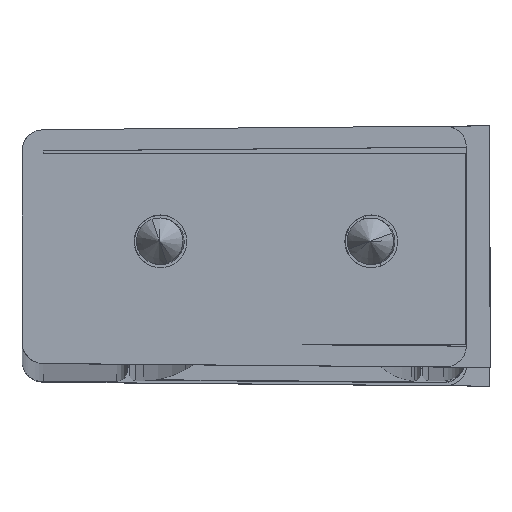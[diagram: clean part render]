
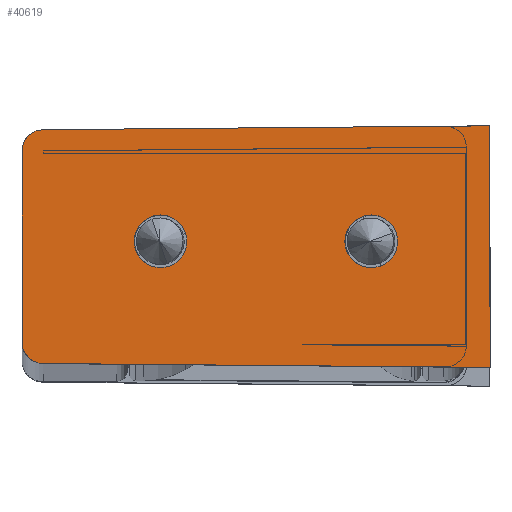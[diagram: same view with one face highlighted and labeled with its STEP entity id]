
A CAD part, top view. The second image highlights one B-rep face of the part: STEP entity #40619.
In plain terms, the highlighted planar face has unit normal (-0.009, 0, 1) as drawn and (0.009, 0, -1) by its records, which use the part's own axes.
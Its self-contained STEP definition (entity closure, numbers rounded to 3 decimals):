
#1077 = PLANE ( 'NONE',  #30287 ) ;
#1112 = LINE ( 'NONE', #33398, #12534 ) ;
#1162 = CARTESIAN_POINT ( 'NONE',  ( 19.609, -1.695, -2.995 ) ) ;
#1310 = LINE ( 'NONE', #36762, #19911 ) ;
#1479 = FACE_OUTER_BOUND ( 'NONE', #30213, .T. ) ;
#1714 = DIRECTION ( 'NONE',  ( 0., -1., 0. ) ) ;
#2195 = LINE ( 'NONE', #22270, #30012 ) ;
#2247 = EDGE_CURVE ( 'NONE', #39160, #6664, #2195, .T. ) ;
#2525 = CIRCLE ( 'NONE', #15365, 1.25 ) ;
#2526 = CIRCLE ( 'NONE', #28144, 1.25 ) ;
#3198 = CARTESIAN_POINT ( 'NONE',  ( 19.609, 9.395, -2.995 ) ) ;
#3529 = ORIENTED_EDGE ( 'NONE', *, *, #10247, .T. ) ;
#4413 = DIRECTION ( 'NONE',  ( 1., 0., 0.009 ) ) ;
#4852 = DIRECTION ( 'NONE',  ( -1., 0., -0.009 ) ) ;
#4941 = EDGE_CURVE ( 'NONE', #35570, #30748, #31920, .T. ) ;
#5323 = ORIENTED_EDGE ( 'NONE', *, *, #4941, .T. ) ;
#5605 = EDGE_CURVE ( 'NONE', #26976, #10889, #2526, .T. ) ;
#5687 = CARTESIAN_POINT ( 'NONE',  ( 14.033, 4.1, -3.043 ) ) ;
#6156 = ORIENTED_EDGE ( 'NONE', *, *, #39337, .T. ) ;
#6253 = LINE ( 'NONE', #12170, #16762 ) ;
#6260 = EDGE_LOOP ( 'NONE', ( #21070, #14639 ) ) ;
#6466 = EDGE_CURVE ( 'NONE', #37592, #39160, #7400, .T. ) ;
#6664 = VERTEX_POINT ( 'NONE', #8321 ) ;
#7227 = CARTESIAN_POINT ( 'NONE',  ( 20.6, 8.395, -2.986 ) ) ;
#7400 =( BOUNDED_CURVE ( )  B_SPLINE_CURVE ( 3, ( #22914, #20368, #19747, #1162 ),
 .UNSPECIFIED., .F., .F. ) 
 B_SPLINE_CURVE_WITH_KNOTS ( ( 4, 4 ),
 ( 3.142, 4.704 ),
 .UNSPECIFIED. ) 
 CURVE ( )  GEOMETRIC_REPRESENTATION_ITEM ( )  RATIONAL_B_SPLINE_CURVE ( ( 1., 0.807, 0.807, 1. ) ) 
 REPRESENTATION_ITEM ( '' )  );
#7552 = VERTEX_POINT ( 'NONE', #38250 ) ;
#8321 = CARTESIAN_POINT ( 'NONE',  ( -1.6, -1.88, -3.18 ) ) ;
#8923 = ORIENTED_EDGE ( 'NONE', *, *, #34466, .T. ) ;
#9155 = CIRCLE ( 'NONE', #34081, 1.25 ) ;
#9654 = CARTESIAN_POINT ( 'NONE',  ( 20.6, 8.395, -2.986 ) ) ;
#9775 = CARTESIAN_POINT ( 'NONE',  ( 20.19, 9.39, -2.99 ) ) ;
#9778 = CARTESIAN_POINT ( 'NONE',  ( 20.6, -0.695, -2.986 ) ) ;
#10247 = EDGE_CURVE ( 'NONE', #30748, #37592, #1310, .T. ) ;
#10583 = CARTESIAN_POINT ( 'NONE',  ( 19., 0., -3. ) ) ;
#10889 = VERTEX_POINT ( 'NONE', #17023 ) ;
#12170 = CARTESIAN_POINT ( 'NONE',  ( 19.126, 9.399, -2.999 ) ) ;
#12282 = ORIENTED_EDGE ( 'NONE', *, *, #5605, .T. ) ;
#12534 = VECTOR ( 'NONE', #13986, 1000. ) ;
#12857 = VERTEX_POINT ( 'NONE', #22787 ) ;
#13986 = DIRECTION ( 'NONE',  ( 0., 1., 0. ) ) ;
#14639 = ORIENTED_EDGE ( 'NONE', *, *, #16229, .T. ) ;
#14823 = ORIENTED_EDGE ( 'NONE', *, *, #2247, .T. ) ;
#15080 = DIRECTION ( 'NONE',  ( -1., -0.009, -0.009 ) ) ;
#15200 = EDGE_LOOP ( 'NONE', ( #8923, #12282 ) ) ;
#15365 = AXIS2_PLACEMENT_3D ( 'NONE', #5687, #41139, #31443 ) ;
#15707 = EDGE_CURVE ( 'NONE', #6664, #7552, #1112, .T. ) ;
#16229 = EDGE_CURVE ( 'NONE', #12857, #26252, #38841, .T. ) ;
#16762 = VECTOR ( 'NONE', #18493, 1000. ) ;
#16782 = DIRECTION ( 'NONE',  ( 1., 0., 0.009 ) ) ;
#17023 = CARTESIAN_POINT ( 'NONE',  ( 5.283, 4.1, -3.12 ) ) ;
#17225 = EDGE_CURVE ( 'NONE', #26252, #12857, #2525, .T. ) ;
#17911 = ORIENTED_EDGE ( 'NONE', *, *, #15707, .T. ) ;
#18493 = DIRECTION ( 'NONE',  ( 1., -0.009, 0.009 ) ) ;
#19658 = CARTESIAN_POINT ( 'NONE',  ( 19.609, -1.695, -2.995 ) ) ;
#19747 = CARTESIAN_POINT ( 'NONE',  ( 20.19, -1.69, -2.99 ) ) ;
#19911 = VECTOR ( 'NONE', #1714, 1000. ) ;
#19971 = CARTESIAN_POINT ( 'NONE',  ( 14.033, 4.1, -3.043 ) ) ;
#20368 = CARTESIAN_POINT ( 'NONE',  ( 20.6, -1.276, -2.986 ) ) ;
#21070 = ORIENTED_EDGE ( 'NONE', *, *, #17225, .T. ) ;
#21111 = ORIENTED_EDGE ( 'NONE', *, *, #6466, .T. ) ;
#22270 = CARTESIAN_POINT ( 'NONE',  ( 19.126, -1.699, -2.999 ) ) ;
#22787 = CARTESIAN_POINT ( 'NONE',  ( 12.783, 4.1, -3.054 ) ) ;
#22914 = CARTESIAN_POINT ( 'NONE',  ( 20.6, -0.695, -2.986 ) ) ;
#23239 = FACE_BOUND ( 'NONE', #15200, .T. ) ;
#23537 = DIRECTION ( 'NONE',  ( -0.009, 0., 1. ) ) ;
#23837 = CARTESIAN_POINT ( 'NONE',  ( 4.033, 4.1, -3.131 ) ) ;
#26252 = VERTEX_POINT ( 'NONE', #28949 ) ;
#26976 = VERTEX_POINT ( 'NONE', #34958 ) ;
#27695 = CARTESIAN_POINT ( 'NONE',  ( 4.033, 4.1, -3.131 ) ) ;
#28144 = AXIS2_PLACEMENT_3D ( 'NONE', #23837, #30371, #4413 ) ;
#28949 = CARTESIAN_POINT ( 'NONE',  ( 15.283, 4.1, -3.032 ) ) ;
#30012 = VECTOR ( 'NONE', #15080, 1000. ) ;
#30213 = EDGE_LOOP ( 'NONE', ( #3529, #21111, #14823, #17911, #6156, #5323 ) ) ;
#30287 = AXIS2_PLACEMENT_3D ( 'NONE', #10583, #40089, #4852 ) ;
#30371 = DIRECTION ( 'NONE',  ( -0.009, 0., 1. ) ) ;
#30637 = DIRECTION ( 'NONE',  ( -0.009, 0., 1. ) ) ;
#30699 = CARTESIAN_POINT ( 'NONE',  ( 19.609, 9.395, -2.995 ) ) ;
#30748 = VERTEX_POINT ( 'NONE', #9654 ) ;
#31443 = DIRECTION ( 'NONE',  ( 1., 0., 0.009 ) ) ;
#31459 = AXIS2_PLACEMENT_3D ( 'NONE', #19971, #23537, #16782 ) ;
#31920 =( BOUNDED_CURVE ( )  B_SPLINE_CURVE ( 3, ( #3198, #9775, #32756, #7227 ),
 .UNSPECIFIED., .F., .F. ) 
 B_SPLINE_CURVE_WITH_KNOTS ( ( 4, 4 ),
 ( 1.58, 3.142 ),
 .UNSPECIFIED. ) 
 CURVE ( )  GEOMETRIC_REPRESENTATION_ITEM ( )  RATIONAL_B_SPLINE_CURVE ( ( 1., 0.807, 0.807, 1. ) ) 
 REPRESENTATION_ITEM ( '' )  );
#32756 = CARTESIAN_POINT ( 'NONE',  ( 20.6, 8.976, -2.986 ) ) ;
#33398 = CARTESIAN_POINT ( 'NONE',  ( -1.6, -1.7, -3.18 ) ) ;
#34012 = DIRECTION ( 'NONE',  ( 1., 0., 0.009 ) ) ;
#34081 = AXIS2_PLACEMENT_3D ( 'NONE', #27695, #30637, #34012 ) ;
#34466 = EDGE_CURVE ( 'NONE', #10889, #26976, #9155, .T. ) ;
#34958 = CARTESIAN_POINT ( 'NONE',  ( 2.783, 4.1, -3.142 ) ) ;
#35570 = VERTEX_POINT ( 'NONE', #30699 ) ;
#36519 = FACE_BOUND ( 'NONE', #6260, .T. ) ;
#36762 = CARTESIAN_POINT ( 'NONE',  ( 20.6, 9.4, -2.986 ) ) ;
#37592 = VERTEX_POINT ( 'NONE', #9778 ) ;
#38250 = CARTESIAN_POINT ( 'NONE',  ( -1.6, 9.58, -3.18 ) ) ;
#38841 = CIRCLE ( 'NONE', #31459, 1.25 ) ;
#39160 = VERTEX_POINT ( 'NONE', #19658 ) ;
#39337 = EDGE_CURVE ( 'NONE', #7552, #35570, #6253, .T. ) ;
#40089 = DIRECTION ( 'NONE',  ( 0.009, 0., -1. ) ) ;
#40619 = ADVANCED_FACE ( 'NONE', ( #36519, #23239, #1479 ), #1077, .T. ) ;
#41139 = DIRECTION ( 'NONE',  ( -0.009, 0., 1. ) ) ;
